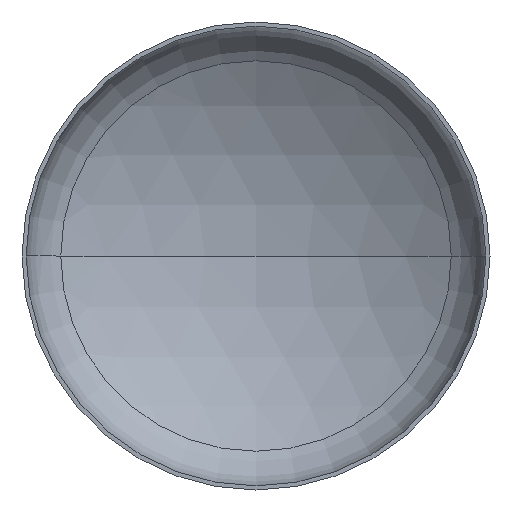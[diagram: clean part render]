
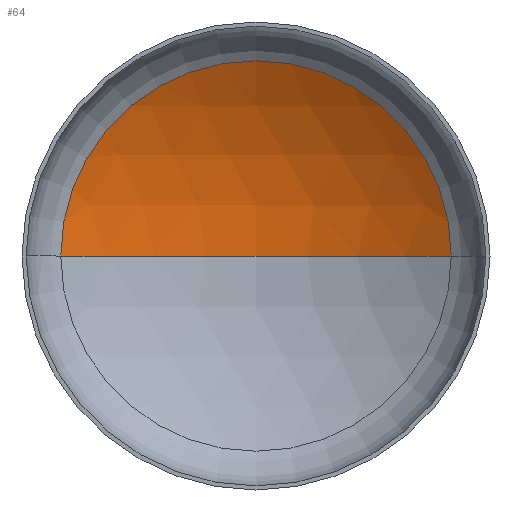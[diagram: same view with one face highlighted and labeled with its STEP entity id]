
A CAD part, front view. The second image highlights one B-rep face of the part: STEP entity #64.
In plain terms, the highlighted spherical face has radius 3600 mm.
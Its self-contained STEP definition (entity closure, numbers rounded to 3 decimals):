
#2 = DIRECTION ( 'NONE',  ( 0., 0., -1. ) ) ;
#5 = VERTEX_POINT ( 'NONE', #272 ) ;
#12 = ORIENTED_EDGE ( 'NONE', *, *, #345, .T. ) ;
#15 = DIRECTION ( 'NONE',  ( 1., 0., 0. ) ) ;
#18 = AXIS2_PLACEMENT_3D ( 'NONE', #304, #2, #182 ) ;
#24 = EDGE_LOOP ( 'NONE', ( #54, #12, #156 ) ) ;
#26 = VERTEX_POINT ( 'NONE', #305 ) ;
#29 = AXIS2_PLACEMENT_3D ( 'NONE', #158, #177, #172 ) ;
#44 = CIRCLE ( 'NONE', #18, 3600. ) ;
#50 = DIRECTION ( 'NONE',  ( 0., 0., 1. ) ) ;
#51 = VERTEX_POINT ( 'NONE', #371 ) ;
#54 = ORIENTED_EDGE ( 'NONE', *, *, #383, .F. ) ;
#64 = ADVANCED_FACE ( 'NONE', ( #151 ), #297, .F. ) ;
#85 = AXIS2_PLACEMENT_3D ( 'NONE', #256, #258, #253 ) ;
#151 = FACE_OUTER_BOUND ( 'NONE', #24, .T. ) ;
#156 = ORIENTED_EDGE ( 'NONE', *, *, #339, .T. ) ;
#158 = CARTESIAN_POINT ( 'NONE',  ( 0., 713.003, 0. ) ) ;
#172 = DIRECTION ( 'NONE',  ( 1., 0., 0. ) ) ;
#176 = CIRCLE ( 'NONE', #362, 3600. ) ;
#177 = DIRECTION ( 'NONE',  ( 0., -1., 0. ) ) ;
#182 = DIRECTION ( 'NONE',  ( -1., 0., 0. ) ) ;
#212 = CARTESIAN_POINT ( 'NONE',  ( 0., -2358.669, 0. ) ) ;
#253 = DIRECTION ( 'NONE',  ( -1., 0., 0. ) ) ;
#256 = CARTESIAN_POINT ( 'NONE',  ( 0., -2358.669, 0. ) ) ;
#258 = DIRECTION ( 'NONE',  ( 0., 0., -1. ) ) ;
#272 = CARTESIAN_POINT ( 'NONE',  ( -1877.453, 713.003, 0. ) ) ;
#297 = SPHERICAL_SURFACE ( 'NONE', #85, 3600. ) ;
#304 = CARTESIAN_POINT ( 'NONE',  ( 0., -2358.669, 0. ) ) ;
#305 = CARTESIAN_POINT ( 'NONE',  ( 0., 1241.331, 0. ) ) ;
#320 = CIRCLE ( 'NONE', #29, 1877.453 ) ;
#339 = EDGE_CURVE ( 'NONE', #51, #5, #320, .T. ) ;
#345 = EDGE_CURVE ( 'NONE', #26, #51, #44, .T. ) ;
#362 = AXIS2_PLACEMENT_3D ( 'NONE', #212, #50, #15 ) ;
#371 = CARTESIAN_POINT ( 'NONE',  ( 1877.453, 713.003, 0. ) ) ;
#383 = EDGE_CURVE ( 'NONE', #26, #5, #176, .T. ) ;
